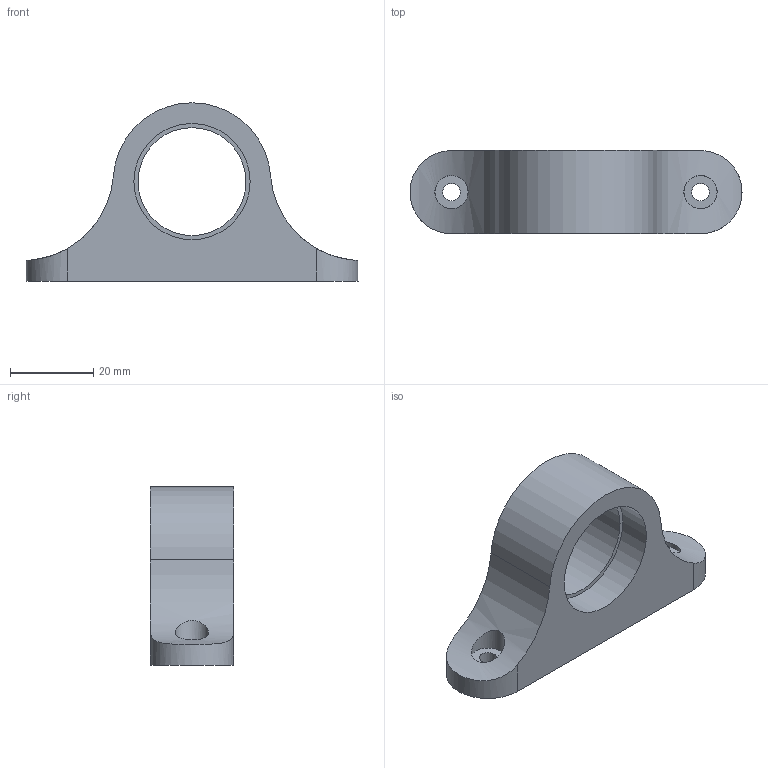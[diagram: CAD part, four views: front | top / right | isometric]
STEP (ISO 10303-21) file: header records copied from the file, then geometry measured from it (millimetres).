
FILE_DESCRIPTION(/* description */ ('STEP AP242','CAx-IF Rec.Pracs.---Representation and Presentation of Product Manufacturing Information (PMI)---4.0---2014-10-13','CAx-IF Rec.Pracs.---3D Tessellated Geometry---0.4---2014-09-14','2;1','CAx-IF Rec.Pracs.---User Defined Attributes---1.5---2016-08-15'),/* implementation_level */ '2;1');
FILE_NAME(/* name */ 'Full Assembly - Part 1 (3)',/* time_stamp */ '2025-11-03T04:00:12Z',/* author */ (''),/* organization */ (''),/* preprocessor_version */ 'ST-DEVELOPER v20',/* originating_system */ 'ONSHAPE BY PTC INC, 1.206',/* authorisation */ ' ');
FILE_SCHEMA (('AP242_MANAGED_MODEL_BASED_3D_ENGINEERING_MIM_LF { 1 0 10303 442 1 1 4 }'));
Length unit declared in the file: metre
Products named in the file (1): Part 1
Bounding box: 80 x 20 x 43 mm (x, y, z)
Volume: 25650.2 mm3; surface area: 8591.2 mm2
Topology: 1 solids, 1 shells, 17 faces, 39 edges, 27 vertices
Faces by surface type: cylinder 11, plane 6
Full cylindrical faces by diameter (mm): 4.2 x2, 8 x2, 26 x1, 28 x1
Entity records: 522 total; most frequent: CARTESIAN_POINT 130, DIRECTION 80, ORIENTED_EDGE 60, AXIS2_PLACEMENT_3D 36, EDGE_LOOP 32, FACE_BOUND 32, EDGE_CURVE 30, VERTEX_POINT 24
